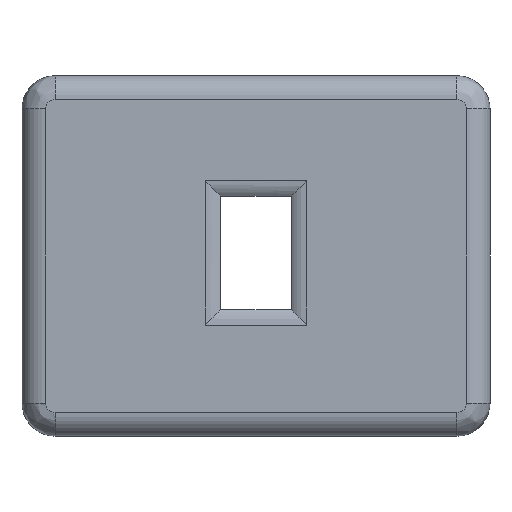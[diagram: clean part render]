
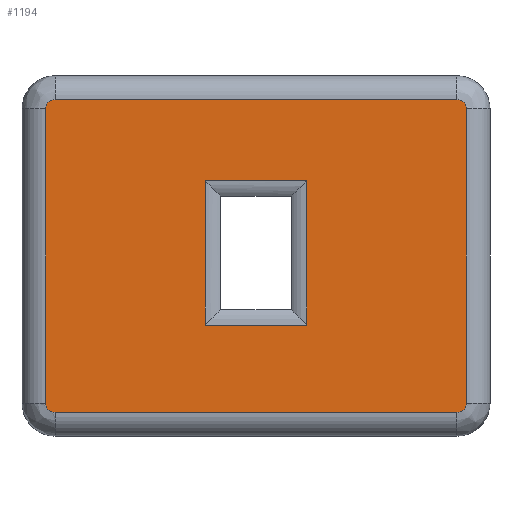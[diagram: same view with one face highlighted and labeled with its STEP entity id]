
A CAD part, front view. The second image highlights one B-rep face of the part: STEP entity #1194.
In plain terms, the highlighted planar face has unit normal (0, -1, 0).
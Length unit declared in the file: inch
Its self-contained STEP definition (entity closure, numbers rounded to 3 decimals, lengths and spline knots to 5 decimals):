
#15=FACE_BOUND('',#190,.T.);
#48=PLANE('',#1333);
#119=FACE_OUTER_BOUND('',#189,.T.);
#189=EDGE_LOOP('',(#1008,#1009,#1010,#1011,#1012,#1013,#1014,#1015));
#190=EDGE_LOOP('',(#1016,#1017,#1018,#1019));
#279=LINE('',#2009,#386);
#281=LINE('',#2026,#388);
#282=LINE('',#2042,#389);
#283=LINE('',#2056,#390);
#284=LINE('',#2060,#391);
#285=LINE('',#2062,#392);
#286=LINE('',#2064,#393);
#287=LINE('',#2065,#394);
#386=VECTOR('',#1613,0.3937);
#388=VECTOR('',#1623,0.3937);
#389=VECTOR('',#1632,0.3937);
#390=VECTOR('',#1639,0.3937);
#391=VECTOR('',#1642,0.05);
#392=VECTOR('',#1643,0.05);
#393=VECTOR('',#1644,0.05);
#394=VECTOR('',#1645,0.05);
#477=CIRCLE('',#1318,0.02);
#481=CIRCLE('',#1323,0.02);
#484=CIRCLE('',#1327,0.02);
#487=CIRCLE('',#1331,0.02);
#564=VERTEX_POINT('',#2001);
#565=VERTEX_POINT('',#2003);
#566=VERTEX_POINT('',#2007);
#567=VERTEX_POINT('',#2019);
#568=VERTEX_POINT('',#2023);
#569=VERTEX_POINT('',#2036);
#570=VERTEX_POINT('',#2040);
#571=VERTEX_POINT('',#2052);
#572=VERTEX_POINT('',#2058);
#573=VERTEX_POINT('',#2059);
#574=VERTEX_POINT('',#2061);
#575=VERTEX_POINT('',#2063);
#714=EDGE_CURVE('',#564,#565,#477,.T.);
#717=EDGE_CURVE('',#565,#566,#279,.T.);
#719=EDGE_CURVE('',#566,#567,#481,.T.);
#722=EDGE_CURVE('',#567,#568,#281,.T.);
#724=EDGE_CURVE('',#568,#569,#484,.T.);
#726=EDGE_CURVE('',#569,#570,#282,.T.);
#728=EDGE_CURVE('',#570,#571,#487,.T.);
#729=EDGE_CURVE('',#571,#564,#283,.T.);
#730=EDGE_CURVE('',#572,#573,#284,.T.);
#731=EDGE_CURVE('',#574,#572,#285,.T.);
#732=EDGE_CURVE('',#575,#574,#286,.T.);
#733=EDGE_CURVE('',#573,#575,#287,.T.);
#1008=ORIENTED_EDGE('',*,*,#714,.F.);
#1009=ORIENTED_EDGE('',*,*,#729,.F.);
#1010=ORIENTED_EDGE('',*,*,#728,.F.);
#1011=ORIENTED_EDGE('',*,*,#726,.F.);
#1012=ORIENTED_EDGE('',*,*,#724,.F.);
#1013=ORIENTED_EDGE('',*,*,#722,.F.);
#1014=ORIENTED_EDGE('',*,*,#719,.F.);
#1015=ORIENTED_EDGE('',*,*,#717,.F.);
#1016=ORIENTED_EDGE('',*,*,#730,.F.);
#1017=ORIENTED_EDGE('',*,*,#731,.F.);
#1018=ORIENTED_EDGE('',*,*,#732,.F.);
#1019=ORIENTED_EDGE('',*,*,#733,.F.);
#1194=ADVANCED_FACE('',(#119,#15),#48,.T.);
#1318=AXIS2_PLACEMENT_3D('',#2004,#1605,#1606);
#1323=AXIS2_PLACEMENT_3D('',#2021,#1616,#1617);
#1327=AXIS2_PLACEMENT_3D('',#2038,#1626,#1627);
#1331=AXIS2_PLACEMENT_3D('',#2054,#1635,#1636);
#1333=AXIS2_PLACEMENT_3D('',#2057,#1640,#1641);
#1605=DIRECTION('center_axis',(0.,1.,0.));
#1606=DIRECTION('ref_axis',(-0.707,0.,-0.707));
#1613=DIRECTION('',(0.,0.,1.));
#1616=DIRECTION('center_axis',(0.,1.,0.));
#1617=DIRECTION('ref_axis',(-0.707,0.,0.707));
#1623=DIRECTION('',(1.,0.,0.));
#1626=DIRECTION('center_axis',(0.,1.,0.));
#1627=DIRECTION('ref_axis',(0.707,0.,0.707));
#1632=DIRECTION('',(0.,0.,-1.));
#1635=DIRECTION('center_axis',(0.,1.,0.));
#1636=DIRECTION('ref_axis',(0.707,0.,-0.707));
#1639=DIRECTION('',(-1.,0.,0.));
#1640=DIRECTION('center_axis',(0.,-1.,0.));
#1641=DIRECTION('ref_axis',(0.,0.,-1.));
#1642=DIRECTION('',(0.,0.,-1.));
#1643=DIRECTION('',(-1.,0.,0.));
#1644=DIRECTION('',(0.,0.,1.));
#1645=DIRECTION('',(1.,0.,0.));
#2001=CARTESIAN_POINT('',(-0.01,-0.15,-0.65265));
#2003=CARTESIAN_POINT('',(-0.03,-0.15,-0.63265));
#2004=CARTESIAN_POINT('Origin',(-0.01,-0.15,-0.63265));
#2007=CARTESIAN_POINT('',(-0.03,-0.15,-0.01033));
#2009=CARTESIAN_POINT('',(-0.03,-0.15,-0.13091));
#2019=CARTESIAN_POINT('',(-0.01,-0.15,0.00967));
#2021=CARTESIAN_POINT('Origin',(-0.01,-0.15,-0.01033));
#2023=CARTESIAN_POINT('',(0.84,-0.15,0.00967));
#2026=CARTESIAN_POINT('',(0.6625,-0.15,0.00967));
#2036=CARTESIAN_POINT('',(0.86,-0.15,-0.01033));
#2038=CARTESIAN_POINT('Origin',(0.84,-0.15,-0.01033));
#2040=CARTESIAN_POINT('',(0.86,-0.15,-0.63265));
#2042=CARTESIAN_POINT('',(0.86,-0.15,-0.51207));
#2052=CARTESIAN_POINT('',(0.84,-0.15,-0.65265));
#2054=CARTESIAN_POINT('Origin',(0.84,-0.15,-0.63265));
#2056=CARTESIAN_POINT('',(0.1675,-0.15,-0.65265));
#2057=CARTESIAN_POINT('Origin',(0.415,-0.15,-0.32149));
#2058=CARTESIAN_POINT('',(0.3075,-0.15,-0.1625));
#2059=CARTESIAN_POINT('',(0.3075,-0.15,-0.4675));
#2060=CARTESIAN_POINT('',(0.3075,-0.15,-0.435));
#2061=CARTESIAN_POINT('',(0.5225,-0.15,-0.1625));
#2062=CARTESIAN_POINT('',(0.34,-0.15,-0.1625));
#2063=CARTESIAN_POINT('',(0.5225,-0.15,-0.4675));
#2064=CARTESIAN_POINT('',(0.5225,-0.15,-0.435));
#2065=CARTESIAN_POINT('',(0.34,-0.15,-0.4675));
